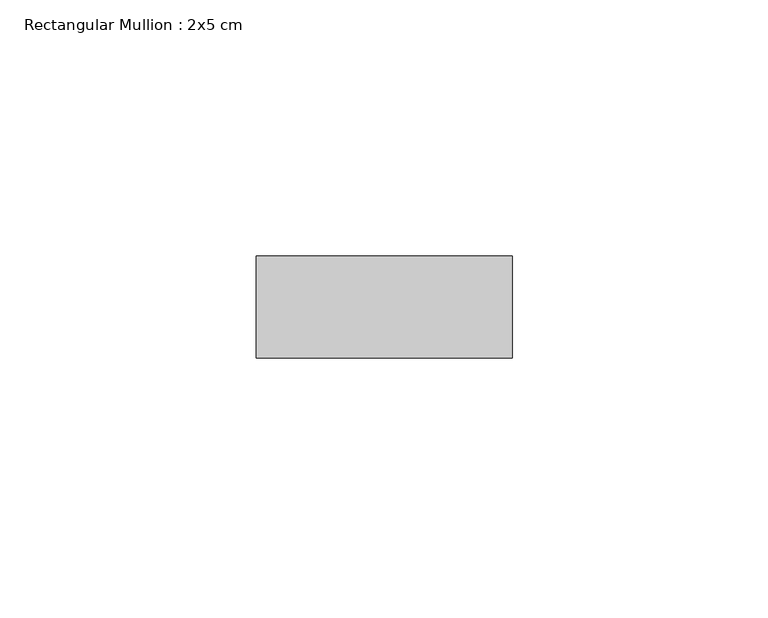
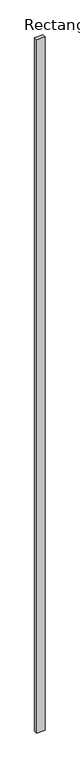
"""IFC4 building model written with IfcOpenShell, lengths in millimetres: member geometry, Rectangular Mullion : 2x5 cm."""

from ifc_helpers import new_model, si_unit, frame, origin, place, context, project, spatial, polyline, outline, extrude, source, transform, mapped, element, save


def rectangular_mullion_2x5_cm_2afa020f(model_context):
    return source(origin(), model_context, "Body", "SweptSolid", [
        extrude(outline(polyline([(50.0, 20.0), (50.0, 0.0), (0.0, 0.0), (0.0, 20.0), (50.0, 20.0)])), frame((0.0, 0.0, -4363.4246969), z_axis=(0.0, 0.0, 1.0), x_axis=(1.0, 0.0, 0.0)), (0.0, 0.0, 1.0), 4363.4246969),
    ])


if __name__ == "__main__":
    model = new_model("IFC4")
    model_context = context("Model", 3, world=origin())
    ifc_project = project(units=[si_unit("LENGTHUNIT", "METRE", prefix="MILLI")], contexts=[model_context])
    site = spatial("IfcSite", under=ifc_project)
    building = spatial("IfcBuilding", under=site)
    placement = place(None, origin())
    rectangular_mullion_2x5_cm_shape = rectangular_mullion_2x5_cm_2afa020f(model_context)
    element("IfcMember", 1, ObjectType="Rectangular Mullion : 2x5 cm", at=placement, inside=building, context=model_context, shape_type="MappedRepresentation", body=[
        mapped(rectangular_mullion_2x5_cm_shape, transform((0.0, 0.0, 0.0), x_axis=(1.0, 0.0, 0.0), y_axis=(0.0, 1.0, 0.0), z_axis=(0.0, 0.0, 1.0))),
    ])
    save(model, "model.ifc")
